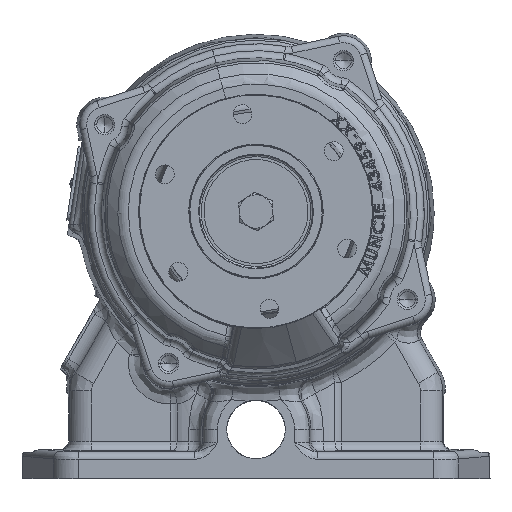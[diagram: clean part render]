
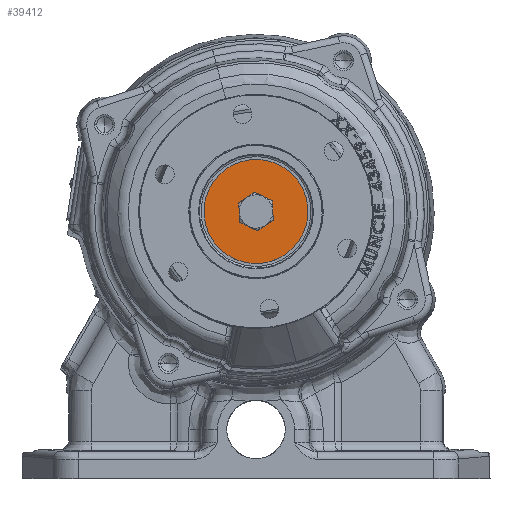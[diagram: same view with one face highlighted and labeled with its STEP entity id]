
A CAD part, top view. The second image highlights one B-rep face of the part: STEP entity #39412.
In plain terms, the highlighted planar face has unit normal (0, 0, 1).
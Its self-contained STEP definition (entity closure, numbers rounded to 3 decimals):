
#2145 = ORIENTED_EDGE ( 'NONE', *, *, #90345, .F. ) ;
#3484 = EDGE_LOOP ( 'NONE', ( #24251, #39319 ) ) ;
#5749 = FACE_BOUND ( 'NONE', #3484, .T. ) ;
#6949 = FACE_OUTER_BOUND ( 'NONE', #16261, .T. ) ;
#16261 = EDGE_LOOP ( 'NONE', ( #74367, #2145 ) ) ;
#17897 = AXIS2_PLACEMENT_3D ( 'NONE', #25074, #62025, #69917 ) ;
#20902 = EDGE_CURVE ( 'NONE', #76679, #51316, #39948, .T. ) ;
#23902 = PLANE ( 'NONE',  #17897 ) ;
#24251 = ORIENTED_EDGE ( 'NONE', *, *, #44735, .T. ) ;
#25074 = CARTESIAN_POINT ( 'NONE',  ( -243.787, 113.607, 210.585 ) ) ;
#31466 = AXIS2_PLACEMENT_3D ( 'NONE', #87516, #59078, #88105 ) ;
#33497 = CARTESIAN_POINT ( 'NONE',  ( -265.952, 115.236, 210.585 ) ) ;
#34864 = AXIS2_PLACEMENT_3D ( 'NONE', #95821, #76415, #67946 ) ;
#39319 = ORIENTED_EDGE ( 'NONE', *, *, #20902, .T. ) ;
#39412 = ADVANCED_FACE ( 'NONE', ( #6949, #5749 ), #23902, .F. ) ;
#39948 = CIRCLE ( 'NONE', #61231, 5.156 ) ;
#41959 = VERTEX_POINT ( 'NONE', #33497 ) ;
#44735 = EDGE_CURVE ( 'NONE', #51316, #76679, #85546, .T. ) ;
#46335 = CARTESIAN_POINT ( 'NONE',  ( -248.929, 113.985, 210.585 ) ) ;
#51102 = AXIS2_PLACEMENT_3D ( 'NONE', #92696, #56363, #103011 ) ;
#51316 = VERTEX_POINT ( 'NONE', #110959 ) ;
#56363 = DIRECTION ( 'NONE',  ( 0., 0., -1. ) ) ;
#59078 = DIRECTION ( 'NONE',  ( 0., 0., -1. ) ) ;
#59938 = DIRECTION ( 'NONE',  ( -0.997, 0.073, 0. ) ) ;
#61231 = AXIS2_PLACEMENT_3D ( 'NONE', #69024, #70816, #59938 ) ;
#62025 = DIRECTION ( 'NONE',  ( 0., 0., -1. ) ) ;
#67946 = DIRECTION ( 'NONE',  ( -0.997, 0.073, 0. ) ) ;
#69024 = CARTESIAN_POINT ( 'NONE',  ( -243.787, 113.607, 210.585 ) ) ;
#69917 = DIRECTION ( 'NONE',  ( -0.997, 0.073, 0. ) ) ;
#70816 = DIRECTION ( 'NONE',  ( 0., 0., -1. ) ) ;
#74367 = ORIENTED_EDGE ( 'NONE', *, *, #97441, .F. ) ;
#76415 = DIRECTION ( 'NONE',  ( 0., 0., -1. ) ) ;
#76679 = VERTEX_POINT ( 'NONE', #46335 ) ;
#77573 = CARTESIAN_POINT ( 'NONE',  ( -221.622, 111.977, 210.585 ) ) ;
#83144 = CIRCLE ( 'NONE', #34864, 22.225 ) ;
#85546 = CIRCLE ( 'NONE', #31466, 5.156 ) ;
#87516 = CARTESIAN_POINT ( 'NONE',  ( -243.787, 113.607, 210.585 ) ) ;
#88105 = DIRECTION ( 'NONE',  ( -0.997, 0.073, 0. ) ) ;
#90345 = EDGE_CURVE ( 'NONE', #41959, #107679, #83144, .T. ) ;
#92696 = CARTESIAN_POINT ( 'NONE',  ( -243.787, 113.607, 210.585 ) ) ;
#95821 = CARTESIAN_POINT ( 'NONE',  ( -243.787, 113.607, 210.585 ) ) ;
#97441 = EDGE_CURVE ( 'NONE', #107679, #41959, #103339, .T. ) ;
#103011 = DIRECTION ( 'NONE',  ( -0.997, 0.073, 0. ) ) ;
#103339 = CIRCLE ( 'NONE', #51102, 22.225 ) ;
#107679 = VERTEX_POINT ( 'NONE', #77573 ) ;
#110959 = CARTESIAN_POINT ( 'NONE',  ( -238.644, 113.229, 210.585 ) ) ;
